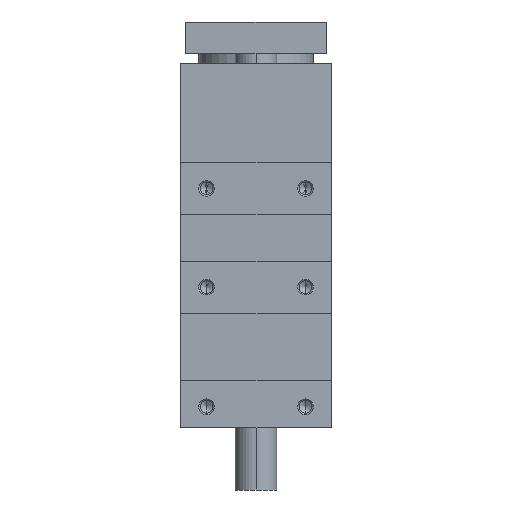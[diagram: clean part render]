
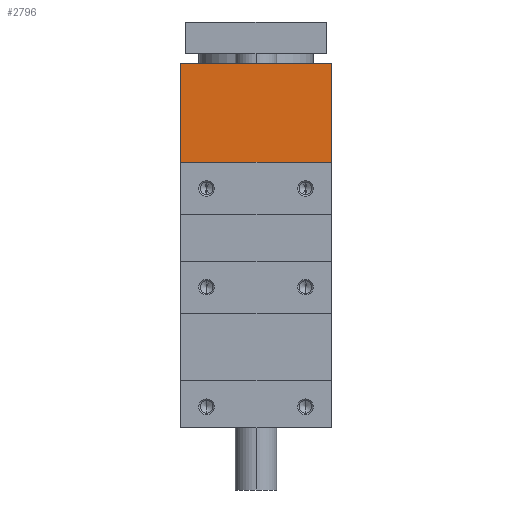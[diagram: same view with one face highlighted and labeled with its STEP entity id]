
A CAD part, left-side view. The second image highlights one B-rep face of the part: STEP entity #2796.
In plain terms, the highlighted planar face has unit normal (-1, 0, 0).
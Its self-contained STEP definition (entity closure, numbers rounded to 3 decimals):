
#592 = VERTEX_POINT ( 'NONE', #7247 ) ;
#776 = CARTESIAN_POINT ( 'NONE',  ( -57.2, 29., 21. ) ) ;
#830 = CARTESIAN_POINT ( 'NONE',  ( -57.2, 58., 21. ) ) ;
#1331 = LINE ( 'NONE', #2740, #6533 ) ;
#1390 = ORIENTED_EDGE ( 'NONE', *, *, #4904, .T. ) ;
#1758 = CARTESIAN_POINT ( 'NONE',  ( -57.2, -29., 0. ) ) ;
#1833 = ORIENTED_EDGE ( 'NONE', *, *, #6585, .T. ) ;
#1955 = DIRECTION ( 'NONE',  ( 0., -1., 0. ) ) ;
#2165 = CARTESIAN_POINT ( 'NONE',  ( -57.2, 58., 21. ) ) ;
#2433 = LINE ( 'NONE', #1758, #8436 ) ;
#2740 = CARTESIAN_POINT ( 'NONE',  ( -57.2, 58., 59. ) ) ;
#2796 = ADVANCED_FACE ( 'NONE', ( #3105 ), #7629, .F. ) ;
#2814 = DIRECTION ( 'NONE',  ( 0., 0., -1. ) ) ;
#3025 = CARTESIAN_POINT ( 'NONE',  ( -57.2, 29., 0. ) ) ;
#3105 = FACE_OUTER_BOUND ( 'NONE', #8191, .T. ) ;
#3619 = VERTEX_POINT ( 'NONE', #776 ) ;
#3753 = CARTESIAN_POINT ( 'NONE',  ( -57.2, -29., 59. ) ) ;
#4021 = AXIS2_PLACEMENT_3D ( 'NONE', #2165, #7007, #9233 ) ;
#4116 = VERTEX_POINT ( 'NONE', #4614 ) ;
#4151 = EDGE_CURVE ( 'NONE', #6148, #4116, #2433, .T. ) ;
#4614 = CARTESIAN_POINT ( 'NONE',  ( -57.2, -29., 21. ) ) ;
#4904 = EDGE_CURVE ( 'NONE', #592, #3619, #9206, .T. ) ;
#5180 = ORIENTED_EDGE ( 'NONE', *, *, #8307, .F. ) ;
#5878 = VECTOR ( 'NONE', #9564, 1000. ) ;
#6128 = VECTOR ( 'NONE', #2814, 1000. ) ;
#6148 = VERTEX_POINT ( 'NONE', #3753 ) ;
#6533 = VECTOR ( 'NONE', #1955, 1000. ) ;
#6585 = EDGE_CURVE ( 'NONE', #3619, #4116, #10233, .T. ) ;
#7007 = DIRECTION ( 'NONE',  ( 1., 0., 0. ) ) ;
#7247 = CARTESIAN_POINT ( 'NONE',  ( -57.2, 29., 59. ) ) ;
#7629 = PLANE ( 'NONE',  #4021 ) ;
#8059 = DIRECTION ( 'NONE',  ( 0., 0., -1. ) ) ;
#8191 = EDGE_LOOP ( 'NONE', ( #1390, #1833, #9949, #5180 ) ) ;
#8307 = EDGE_CURVE ( 'NONE', #592, #6148, #1331, .T. ) ;
#8436 = VECTOR ( 'NONE', #8059, 1000. ) ;
#9206 = LINE ( 'NONE', #3025, #6128 ) ;
#9233 = DIRECTION ( 'NONE',  ( 0., 1., 0. ) ) ;
#9564 = DIRECTION ( 'NONE',  ( 0., -1., 0. ) ) ;
#9949 = ORIENTED_EDGE ( 'NONE', *, *, #4151, .F. ) ;
#10233 = LINE ( 'NONE', #830, #5878 ) ;
